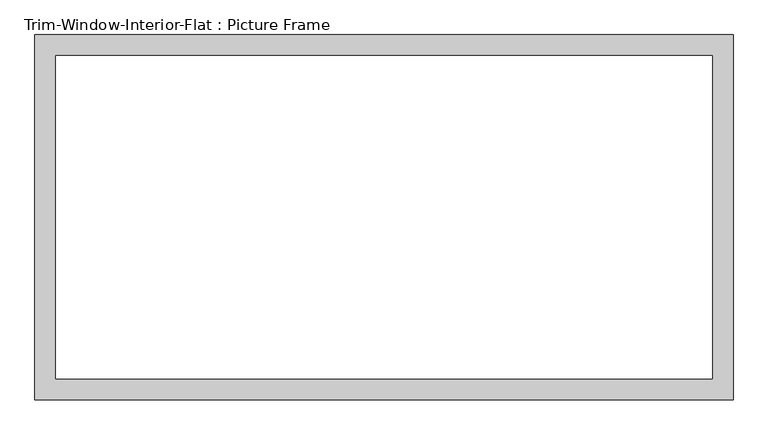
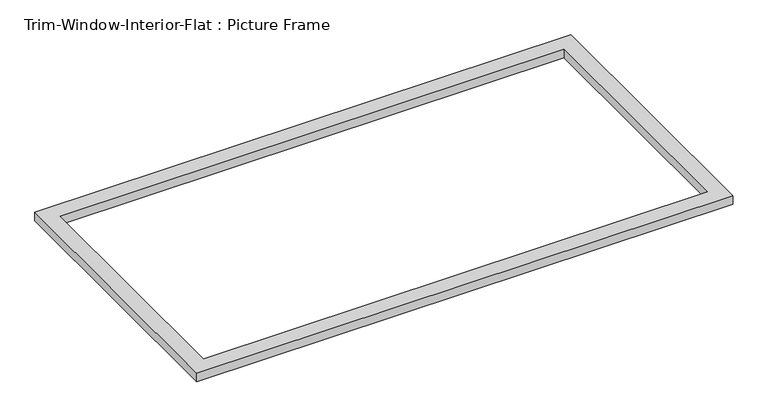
"""IFC4 building model written with IfcOpenShell, lengths in millimetres: proxy geometry, Trim-Window-Interior-Flat : Picture Frame."""

from ifc_helpers import new_model, si_unit, origin, origin_with_axes, place, context, project, spatial, polyline, outline, extrude, source, transform, mapped, element, save


def trim_window_interior_flat_picture_frame_0edfbaa2(model_context):
    return source(origin(), model_context, "Body", "SweptSolid", [
        extrude(outline(polyline([(958.85, 44.45), (958.85, -958.85), (-958.85, -958.85), (-958.85, 44.45), (958.85, 44.45)]), holes=[polyline([(901.7, -12.7), (-901.7, -12.7), (-901.7, -901.7), (901.7, -901.7), (901.7, -12.7)])]), origin_with_axes(), (0.0, 0.0, 1.0), 31.75),
    ])


if __name__ == "__main__":
    model = new_model("IFC4")
    model_context = context("Model", 3, world=origin())
    ifc_project = project(units=[si_unit("LENGTHUNIT", "METRE", prefix="MILLI")], contexts=[model_context])
    site = spatial("IfcSite", under=ifc_project)
    building = spatial("IfcBuilding", under=site)
    placement = place(None, origin())
    trim_window_interior_flat_picture_frame_shape = trim_window_interior_flat_picture_frame_0edfbaa2(model_context)
    element("IfcBuildingElementProxy", 1, Name="Trim-Window-Interior-Flat : Picture Frame", ObjectType="Trim-Window-Interior-Flat : Picture Frame", at=placement, inside=building, context=model_context, shape_type="MappedRepresentation", body=[
        mapped(trim_window_interior_flat_picture_frame_shape, transform((0.0, 0.0, 0.0), x_axis=(1.0, 0.0, 0.0), y_axis=(0.0, 1.0, 0.0), z_axis=(0.0, 0.0, 1.0))),
    ])
    save(model, "model.ifc")
